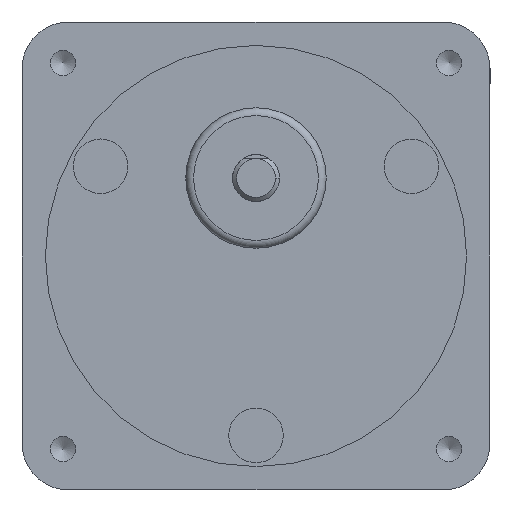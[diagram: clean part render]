
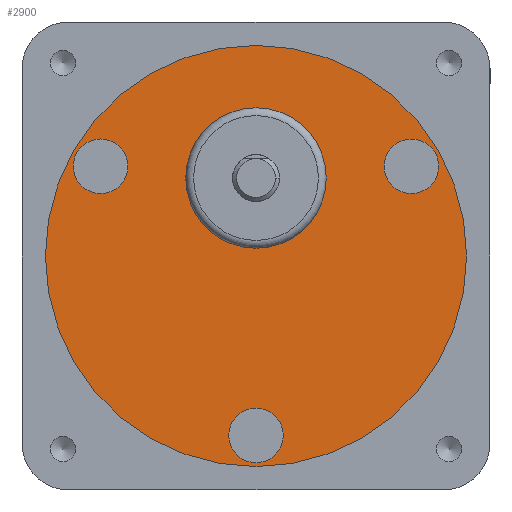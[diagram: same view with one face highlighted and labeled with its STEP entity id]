
A CAD part, front view. The second image highlights one B-rep face of the part: STEP entity #2900.
In plain terms, the highlighted planar face has unit normal (0, -1, 0).
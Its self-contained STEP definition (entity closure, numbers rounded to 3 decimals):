
#35=FACE_BOUND('',#503,.T.);
#36=FACE_BOUND('',#504,.T.);
#37=FACE_BOUND('',#505,.T.);
#38=FACE_BOUND('',#506,.T.);
#105=PLANE('',#3238);
#303=FACE_OUTER_BOUND('',#502,.T.);
#502=EDGE_LOOP('',(#2168));
#503=EDGE_LOOP('',(#2169));
#504=EDGE_LOOP('',(#2170));
#505=EDGE_LOOP('',(#2171));
#506=EDGE_LOOP('',(#2172));
#688=CIRCLE('',#3142,3.5);
#690=CIRCLE('',#3146,3.5);
#692=CIRCLE('',#3150,3.5);
#739=CIRCLE('',#3237,27.);
#740=CIRCLE('',#3239,9.);
#1325=VERTEX_POINT('',#4455);
#1327=VERTEX_POINT('',#4462);
#1329=VERTEX_POINT('',#4469);
#1388=VERTEX_POINT('',#4656);
#1389=VERTEX_POINT('',#4660);
#1586=EDGE_CURVE('',#1325,#1325,#688,.T.);
#1589=EDGE_CURVE('',#1327,#1327,#690,.T.);
#1592=EDGE_CURVE('',#1329,#1329,#692,.T.);
#1681=EDGE_CURVE('',#1388,#1388,#739,.T.);
#1682=EDGE_CURVE('',#1389,#1389,#740,.T.);
#2168=ORIENTED_EDGE('',*,*,#1681,.T.);
#2169=ORIENTED_EDGE('',*,*,#1586,.T.);
#2170=ORIENTED_EDGE('',*,*,#1589,.T.);
#2171=ORIENTED_EDGE('',*,*,#1592,.T.);
#2172=ORIENTED_EDGE('',*,*,#1682,.F.);
#2900=ADVANCED_FACE('',(#303,#35,#36,#37,#38),#105,.F.);
#3142=AXIS2_PLACEMENT_3D('',#4456,#3509,#3510);
#3146=AXIS2_PLACEMENT_3D('',#4463,#3518,#3519);
#3150=AXIS2_PLACEMENT_3D('',#4470,#3527,#3528);
#3237=AXIS2_PLACEMENT_3D('',#4658,#3743,#3744);
#3238=AXIS2_PLACEMENT_3D('',#4659,#3745,#3746);
#3239=AXIS2_PLACEMENT_3D('',#4661,#3747,#3748);
#3509=DIRECTION('center_axis',(0.,1.,0.));
#3510=DIRECTION('ref_axis',(0.5,0.,-0.866));
#3518=DIRECTION('center_axis',(0.,1.,0.));
#3519=DIRECTION('ref_axis',(0.5,0.,0.866));
#3527=DIRECTION('center_axis',(0.,1.,0.));
#3528=DIRECTION('ref_axis',(-1.,0.,0.));
#3743=DIRECTION('center_axis',(0.,-1.,0.));
#3744=DIRECTION('ref_axis',(-1.,0.,0.));
#3745=DIRECTION('center_axis',(0.,1.,0.));
#3746=DIRECTION('ref_axis',(0.,0.,1.));
#3747=DIRECTION('center_axis',(0.,-1.,0.));
#3748=DIRECTION('ref_axis',(-1.,0.,0.));
#4455=CARTESIAN_POINT('',(18.169,0.5,14.531));
#4456=CARTESIAN_POINT('Origin',(19.919,0.5,11.5));
#4462=CARTESIAN_POINT('',(-21.669,0.5,8.469));
#4463=CARTESIAN_POINT('Origin',(-19.919,0.5,11.5));
#4469=CARTESIAN_POINT('',(3.5,0.5,-23.));
#4470=CARTESIAN_POINT('Origin',(0.,0.5,-23.));
#4656=CARTESIAN_POINT('',(27.,0.5,0.));
#4658=CARTESIAN_POINT('Origin',(0.,0.5,0.));
#4659=CARTESIAN_POINT('Origin',(0.,0.5,0.));
#4660=CARTESIAN_POINT('',(9.,0.5,10.));
#4661=CARTESIAN_POINT('Origin',(0.,0.5,10.));
